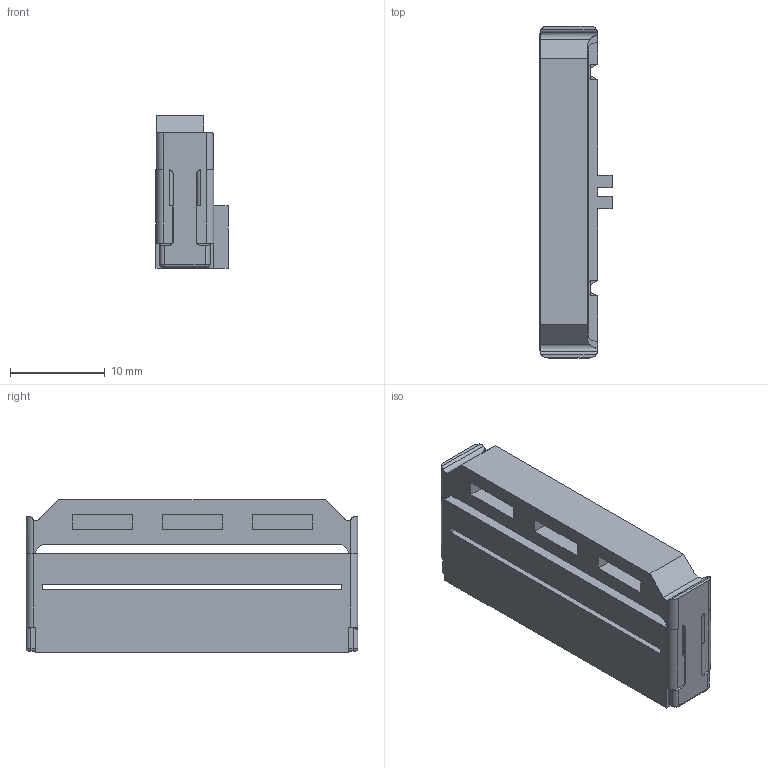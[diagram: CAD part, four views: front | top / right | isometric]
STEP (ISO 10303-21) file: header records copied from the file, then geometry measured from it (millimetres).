
FILE_DESCRIPTION(/* description */ (''),/* implementation_level */ '2;1');
FILE_NAME(/* name */ '3626-6624-01',/* time_stamp */ '2006-11-15T10:01:43-06:00',/* author */ (''),/* organization */ (''),/* preprocessor_version */ 'ST-DEVELOPER v9',/* originating_system */ 'UGS - NX 3.0',/* authorisation */ '');
FILE_SCHEMA (('CONFIG_CONTROL_DESIGN'));
Length unit declared in the file: inch
Products named in the file (1): a0tt28ABs0zt
Bounding box: 7.62 x 35.05 x 16.13 mm (x, y, z)
Volume: 2639.6 mm3; surface area: 2747.8 mm2
Topology: 1 solids, 1 shells, 341 faces, 928 edges, 600 vertices
Faces by surface type: plane 262, cylinder 61, bspline 14, torus 4
Entity records: 11630 total; most frequent: CARTESIAN_POINT 3132, ORIENTED_EDGE 1856, DIRECTION 1544, EDGE_CURVE 928, LINE 740, VECTOR 740, VERTEX_POINT 600, AXIS2_PLACEMENT_3D 402
